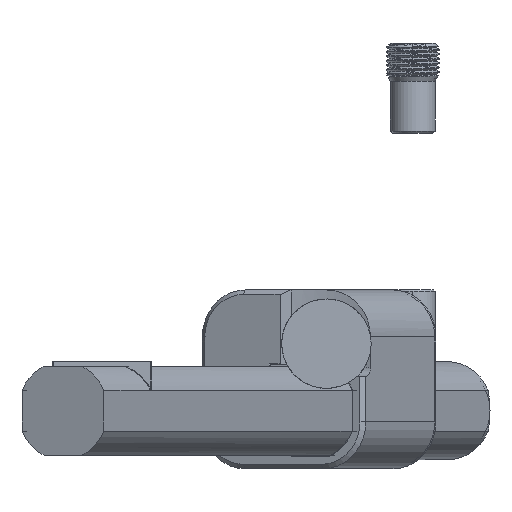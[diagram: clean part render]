
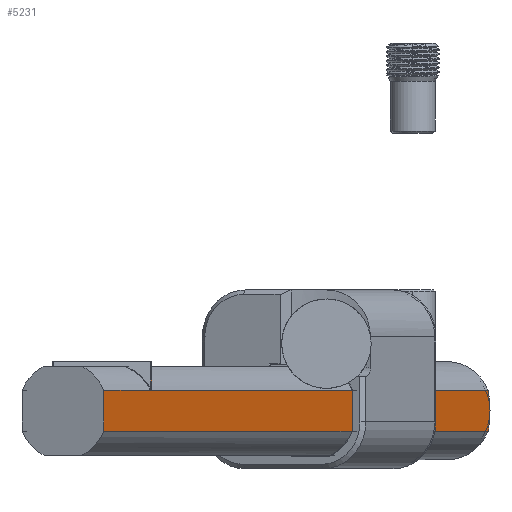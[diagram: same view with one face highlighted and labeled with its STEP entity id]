
A CAD part, front view. The second image highlights one B-rep face of the part: STEP entity #5231.
In plain terms, the highlighted planar face has unit normal (0.913, -0.407, 0) as drawn and (0, 0, -1) by its records, which use the part's own axes.
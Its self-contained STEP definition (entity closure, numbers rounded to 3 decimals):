
#21 = LINE ( 'NONE', #6759, #5809 ) ;
#56 = B_SPLINE_CURVE_WITH_KNOTS ( 'NONE', 3,
 ( #9589, #4394, #8232, #5911 ),
 .UNSPECIFIED., .F., .F.,
 ( 4, 4 ),
 ( 0., 0.005 ),
 .UNSPECIFIED. ) ;
#243 = EDGE_CURVE ( 'NONE', #2387, #2536, #3213, .T. ) ;
#495 = VECTOR ( 'NONE', #1404, 1000. ) ;
#635 = B_SPLINE_CURVE_WITH_KNOTS ( 'NONE', 3,
 ( #9033, #2294, #9076, #4696, #3970, #3918 ),
 .UNSPECIFIED., .F., .F.,
 ( 4, 2, 4 ),
 ( 0., 0.002, 0.005 ),
 .UNSPECIFIED. ) ;
#914 = LINE ( 'NONE', #2489, #2679 ) ;
#990 = VERTEX_POINT ( 'NONE', #1523 ) ;
#1038 = CARTESIAN_POINT ( 'NONE',  ( -4.583, -212.372, -10. ) ) ;
#1303 = DIRECTION ( 'NONE',  ( 0., 0., -1. ) ) ;
#1383 = VECTOR ( 'NONE', #7848, 1000. ) ;
#1404 = DIRECTION ( 'NONE',  ( 0., 1., 0. ) ) ;
#1484 = ORIENTED_EDGE ( 'NONE', *, *, #5511, .T. ) ;
#1523 = CARTESIAN_POINT ( 'NONE',  ( 11., -186.642, -10. ) ) ;
#1715 = VERTEX_POINT ( 'NONE', #6321 ) ;
#2294 = CARTESIAN_POINT ( 'NONE',  ( 0.794, 0., -10. ) ) ;
#2320 = ORIENTED_EDGE ( 'NONE', *, *, #3376, .F. ) ;
#2387 = VERTEX_POINT ( 'NONE', #3605 ) ;
#2407 = ORIENTED_EDGE ( 'NONE', *, *, #5395, .T. ) ;
#2413 = CARTESIAN_POINT ( 'NONE',  ( 0., 0., -10. ) ) ;
#2489 = CARTESIAN_POINT ( 'NONE',  ( 11., -186.095, -10. ) ) ;
#2536 = VERTEX_POINT ( 'NONE', #6723 ) ;
#2679 = VECTOR ( 'NONE', #6315, 1000. ) ;
#2985 = PLANE ( 'NONE',  #7722 ) ;
#3213 = LINE ( 'NONE', #7834, #8317 ) ;
#3226 = LINE ( 'NONE', #4850, #1383 ) ;
#3318 = CARTESIAN_POINT ( 'NONE',  ( 4.583, -186.642, -10. ) ) ;
#3376 = EDGE_CURVE ( 'NONE', #2536, #1715, #7946, .T. ) ;
#3527 = VECTOR ( 'NONE', #9508, 1000. ) ;
#3605 = CARTESIAN_POINT ( 'NONE',  ( 11., -186.095, -10. ) ) ;
#3759 = ORIENTED_EDGE ( 'NONE', *, *, #8548, .F. ) ;
#3918 = CARTESIAN_POINT ( 'NONE',  ( 4.583, -1., -10. ) ) ;
#3970 = CARTESIAN_POINT ( 'NONE',  ( 3.852, -0.696, -10. ) ) ;
#4054 = ORIENTED_EDGE ( 'NONE', *, *, #9049, .F. ) ;
#4135 = EDGE_CURVE ( 'NONE', #990, #5611, #21, .T. ) ;
#4267 = CARTESIAN_POINT ( 'NONE',  ( 4.583, -294., -10. ) ) ;
#4314 = DIRECTION ( 'NONE',  ( -1., 0., 0. ) ) ;
#4394 = CARTESIAN_POINT ( 'NONE',  ( -3.116, -0.389, -10. ) ) ;
#4671 = VECTOR ( 'NONE', #5691, 1000. ) ;
#4696 = CARTESIAN_POINT ( 'NONE',  ( 3.099, -0.443, -10. ) ) ;
#4850 = CARTESIAN_POINT ( 'NONE',  ( 4.583, -294., -10. ) ) ;
#5231 = ADVANCED_FACE ( 'NONE', ( #9614 ), #2985, .T. ) ;
#5243 = CARTESIAN_POINT ( 'NONE',  ( -4.583, -294., -10. ) ) ;
#5395 = EDGE_CURVE ( 'NONE', #6538, #6151, #8096, .T. ) ;
#5511 = EDGE_CURVE ( 'NONE', #8456, #1715, #635, .T. ) ;
#5611 = VERTEX_POINT ( 'NONE', #3318 ) ;
#5641 = LINE ( 'NONE', #7222, #4671 ) ;
#5691 = DIRECTION ( 'NONE',  ( 1., 0., 0. ) ) ;
#5809 = VECTOR ( 'NONE', #8387, 1000. ) ;
#5911 = CARTESIAN_POINT ( 'NONE',  ( 0., 0., -10. ) ) ;
#6151 = VERTEX_POINT ( 'NONE', #9714 ) ;
#6315 = DIRECTION ( 'NONE',  ( 0., 1., 0. ) ) ;
#6321 = CARTESIAN_POINT ( 'NONE',  ( 4.583, -1., -10. ) ) ;
#6397 = DIRECTION ( 'NONE',  ( -1., 0., 0. ) ) ;
#6538 = VERTEX_POINT ( 'NONE', #1038 ) ;
#6723 = CARTESIAN_POINT ( 'NONE',  ( 4.583, -186.095, -10. ) ) ;
#6759 = CARTESIAN_POINT ( 'NONE',  ( 11., -186.642, -10. ) ) ;
#7222 = CARTESIAN_POINT ( 'NONE',  ( -33., -212.372, -10. ) ) ;
#7415 = EDGE_CURVE ( 'NONE', #990, #2387, #914, .T. ) ;
#7722 = AXIS2_PLACEMENT_3D ( 'NONE', #8201, #1303, #4314 ) ;
#7834 = CARTESIAN_POINT ( 'NONE',  ( 11., -186.095, -10. ) ) ;
#7848 = DIRECTION ( 'NONE',  ( 0., 1., 0. ) ) ;
#7930 = VERTEX_POINT ( 'NONE', #8613 ) ;
#7946 = LINE ( 'NONE', #4267, #3527 ) ;
#8096 = LINE ( 'NONE', #5243, #495 ) ;
#8201 = CARTESIAN_POINT ( 'NONE',  ( -4.583, -294., -10. ) ) ;
#8232 = CARTESIAN_POINT ( 'NONE',  ( -1.6, 0., -10. ) ) ;
#8317 = VECTOR ( 'NONE', #6397, 1000. ) ;
#8387 = DIRECTION ( 'NONE',  ( -1., 0., 0. ) ) ;
#8456 = VERTEX_POINT ( 'NONE', #2413 ) ;
#8498 = ORIENTED_EDGE ( 'NONE', *, *, #9171, .T. ) ;
#8519 = EDGE_LOOP ( 'NONE', ( #3759, #2407, #8498, #1484, #2320, #8757, #8877, #8547, #4054 ) ) ;
#8547 = ORIENTED_EDGE ( 'NONE', *, *, #4135, .T. ) ;
#8548 = EDGE_CURVE ( 'NONE', #6538, #7930, #5641, .T. ) ;
#8613 = CARTESIAN_POINT ( 'NONE',  ( 4.583, -212.372, -10. ) ) ;
#8757 = ORIENTED_EDGE ( 'NONE', *, *, #243, .F. ) ;
#8877 = ORIENTED_EDGE ( 'NONE', *, *, #7415, .F. ) ;
#9033 = CARTESIAN_POINT ( 'NONE',  ( 0., 0., -10. ) ) ;
#9049 = EDGE_CURVE ( 'NONE', #7930, #5611, #3226, .T. ) ;
#9076 = CARTESIAN_POINT ( 'NONE',  ( 1.571, -0.095, -10. ) ) ;
#9171 = EDGE_CURVE ( 'NONE', #6151, #8456, #56, .T. ) ;
#9508 = DIRECTION ( 'NONE',  ( 0., 1., 0. ) ) ;
#9589 = CARTESIAN_POINT ( 'NONE',  ( -4.583, -1., -10. ) ) ;
#9614 = FACE_OUTER_BOUND ( 'NONE', #8519, .T. ) ;
#9714 = CARTESIAN_POINT ( 'NONE',  ( -4.583, -1., -10. ) ) ;
